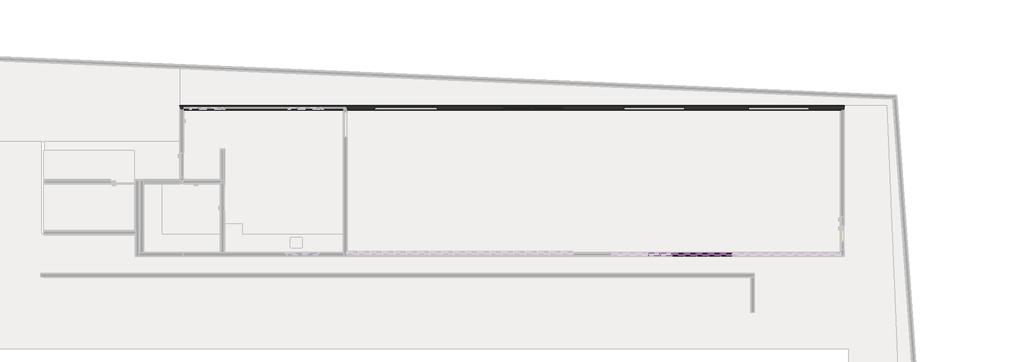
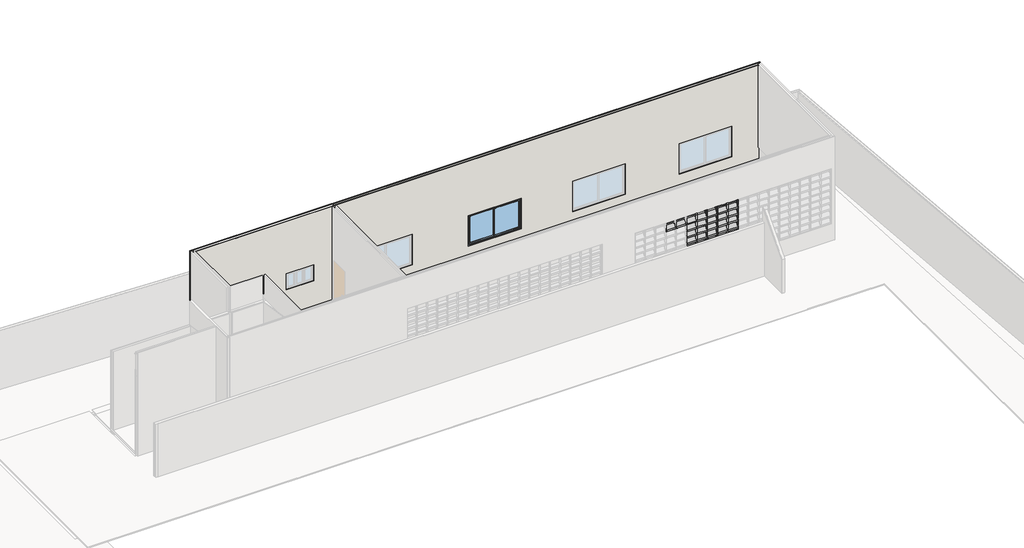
# One storey, part 25 of 28: 97 members, 4 walls, 1 window.
"""IFC4 building model written with IfcOpenShell, lengths in millimetres."""

from ifc_helpers import new_model, si_unit, origin, place, context, project, spatial, faceted_brep, transform, mapped, element, save
from components import montante_retangular_02d07947, montante_retangular_70ba8f4d, montante_retangular_ace9eee9, montante_retangular_afd96132, montante_retangular_e99c3e47, window_2x1_20x1x10_9e9748dd

model = new_model("IFC4")

# Units and contexts
model_context = context("Model", 3, world=origin())
ifc_project = project(units=[si_unit("LENGTHUNIT", "METRE", prefix="MILLI")], contexts=[model_context])

# Site, building, storey
site = spatial("IfcSite", under=ifc_project)
building = spatial("IfcBuilding", under=site)
storey = spatial("IfcBuildingStorey", under=building, Name="Térreo", Elevation=0.0)

# Members
placement = place(None, origin())
montante_retangular_shape = montante_retangular_02d07947(model_context)
element("IfcMember", 1, ObjectType="Montante retangular : FDE_MontanteVenezianaIndustrial_Intermediário_Ref50 (Alumínio Anodizado)", at=placement, inside=storey, context=model_context, shape_type="MappedRepresentation", body=[
    mapped(montante_retangular_shape, transform((-33855.5263157, 48544.0879102, 925.0), x_axis=(1.0, 0.0, 0.0), y_axis=(0.0, -1.0, 0.0), z_axis=(0.0, 0.0, -1.0))),
])
element("IfcMember", 2, ObjectType="Montante retangular : FDE_MontanteVenezianaIndustrial_Intermediário_Ref50 (Alumínio Anodizado)", at=placement, inside=storey, context=model_context, shape_type="MappedRepresentation", body=[
    mapped(montante_retangular_shape, transform((-33448.9473683, 48544.0879102, 925.0), x_axis=(1.0, 0.0, 0.0), y_axis=(0.0, -1.0, 0.0), z_axis=(0.0, 0.0, -1.0))),
])
element("IfcMember", 3, ObjectType="Montante retangular : FDE_MontanteVenezianaIndustrial_Intermediário_Ref50 (Alumínio Anodizado)", at=placement, inside=storey, context=model_context, shape_type="MappedRepresentation", body=[
    mapped(montante_retangular_shape, transform((-33042.368421, 48544.0879102, 925.0), x_axis=(1.0, 0.0, 0.0), y_axis=(0.0, -1.0, 0.0), z_axis=(0.0, 0.0, -1.0))),
])
element("IfcMember", 4, ObjectType="Montante retangular : FDE_MontanteVenezianaIndustrial_Intermediário_Ref50 (Alumínio Anodizado)", at=placement, inside=storey, context=model_context, shape_type="MappedRepresentation", body=[
    mapped(montante_retangular_shape, transform((-32635.7894737, 48544.0879102, 925.0), x_axis=(1.0, 0.0, 0.0), y_axis=(0.0, -1.0, 0.0), z_axis=(0.0, 0.0, -1.0))),
])
element("IfcMember", 5, ObjectType="Montante retangular : FDE_MontanteVenezianaIndustrial_Intermediário_Ref50 (Alumínio Anodizado)", at=placement, inside=storey, context=model_context, shape_type="MappedRepresentation", body=[
    mapped(montante_retangular_shape, transform((-32229.2105263, 48544.0879102, 925.0), x_axis=(1.0, 0.0, 0.0), y_axis=(0.0, -1.0, 0.0), z_axis=(0.0, 0.0, -1.0))),
])
montante_retangular_2_shape = montante_retangular_70ba8f4d(model_context)
element("IfcMember", 6, ObjectType="Montante retangular : FDE_MontanteVenezianaIndustrial_Intermediário_Ref50 (Alumínio Anodizado)", at=placement, inside=storey, context=model_context, shape_type="MappedRepresentation", body=[
    mapped(montante_retangular_2_shape, transform((-33855.5263157, 48544.0879102, 1174.0), x_axis=(1.0, 0.0, 0.0), y_axis=(0.0, -1.0, 0.0), z_axis=(0.0, 0.0, -1.0))),
])
element("IfcMember", 7, ObjectType="Montante retangular : FDE_MontanteVenezianaIndustrial_Intermediário_Ref50 (Alumínio Anodizado)", at=placement, inside=storey, context=model_context, shape_type="MappedRepresentation", body=[
    mapped(montante_retangular_2_shape, transform((-33448.9473683, 48544.0879102, 1174.0), x_axis=(1.0, 0.0, 0.0), y_axis=(0.0, -1.0, 0.0), z_axis=(0.0, 0.0, -1.0))),
])
element("IfcMember", 8, ObjectType="Montante retangular : FDE_MontanteVenezianaIndustrial_Intermediário_Ref50 (Alumínio Anodizado)", at=placement, inside=storey, context=model_context, shape_type="MappedRepresentation", body=[
    mapped(montante_retangular_2_shape, transform((-33042.368421, 48544.0879102, 1174.0), x_axis=(1.0, 0.0, 0.0), y_axis=(0.0, -1.0, 0.0), z_axis=(0.0, 0.0, -1.0))),
])
element("IfcMember", 9, ObjectType="Montante retangular : FDE_MontanteVenezianaIndustrial_Intermediário_Ref50 (Alumínio Anodizado)", at=placement, inside=storey, context=model_context, shape_type="MappedRepresentation", body=[
    mapped(montante_retangular_2_shape, transform((-32635.7894737, 48544.0879102, 1174.0), x_axis=(1.0, 0.0, 0.0), y_axis=(0.0, -1.0, 0.0), z_axis=(0.0, 0.0, -1.0))),
])
element("IfcMember", 10, ObjectType="Montante retangular : FDE_MontanteVenezianaIndustrial_Intermediário_Ref50 (Alumínio Anodizado)", at=placement, inside=storey, context=model_context, shape_type="MappedRepresentation", body=[
    mapped(montante_retangular_2_shape, transform((-32229.2105263, 48544.0879102, 1174.0), x_axis=(1.0, 0.0, 0.0), y_axis=(0.0, -1.0, 0.0), z_axis=(0.0, 0.0, -1.0))),
])
element("IfcMember", 11, ObjectType="Montante retangular : FDE_MontanteVenezianaIndustrial_Intermediário_Ref50 (Alumínio Anodizado)", at=placement, inside=storey, context=model_context, shape_type="MappedRepresentation", body=[
    mapped(montante_retangular_2_shape, transform((-33855.5263157, 48544.0879102, 1448.0), x_axis=(1.0, 0.0, 0.0), y_axis=(0.0, -1.0, 0.0), z_axis=(0.0, 0.0, -1.0))),
])
element("IfcMember", 12, ObjectType="Montante retangular : FDE_MontanteVenezianaIndustrial_Intermediário_Ref50 (Alumínio Anodizado)", at=placement, inside=storey, context=model_context, shape_type="MappedRepresentation", body=[
    mapped(montante_retangular_2_shape, transform((-33448.9473683, 48544.0879102, 1448.0), x_axis=(1.0, 0.0, 0.0), y_axis=(0.0, -1.0, 0.0), z_axis=(0.0, 0.0, -1.0))),
])
element("IfcMember", 13, ObjectType="Montante retangular : FDE_MontanteVenezianaIndustrial_Intermediário_Ref50 (Alumínio Anodizado)", at=placement, inside=storey, context=model_context, shape_type="MappedRepresentation", body=[
    mapped(montante_retangular_2_shape, transform((-33042.368421, 48544.0879102, 1448.0), x_axis=(1.0, 0.0, 0.0), y_axis=(0.0, -1.0, 0.0), z_axis=(0.0, 0.0, -1.0))),
])
element("IfcMember", 14, ObjectType="Montante retangular : FDE_MontanteVenezianaIndustrial_Intermediário_Ref50 (Alumínio Anodizado)", at=placement, inside=storey, context=model_context, shape_type="MappedRepresentation", body=[
    mapped(montante_retangular_2_shape, transform((-32635.7894737, 48544.0879102, 1448.0), x_axis=(1.0, 0.0, 0.0), y_axis=(0.0, -1.0, 0.0), z_axis=(0.0, 0.0, -1.0))),
])
element("IfcMember", 15, ObjectType="Montante retangular : FDE_MontanteVenezianaIndustrial_Intermediário_Ref50 (Alumínio Anodizado)", at=placement, inside=storey, context=model_context, shape_type="MappedRepresentation", body=[
    mapped(montante_retangular_2_shape, transform((-32229.2105263, 48544.0879102, 1448.0), x_axis=(1.0, 0.0, 0.0), y_axis=(0.0, -1.0, 0.0), z_axis=(0.0, 0.0, -1.0))),
])
element("IfcMember", 16, ObjectType="Montante retangular : FDE_MontanteVenezianaIndustrial_Intermediário_Ref50 (Alumínio Anodizado)", at=placement, inside=storey, context=model_context, shape_type="MappedRepresentation", body=[
    mapped(montante_retangular_2_shape, transform((-33855.5263157, 48544.0879102, 1722.0), x_axis=(1.0, 0.0, 0.0), y_axis=(0.0, -1.0, 0.0), z_axis=(0.0, 0.0, -1.0))),
])
element("IfcMember", 17, ObjectType="Montante retangular : FDE_MontanteVenezianaIndustrial_Intermediário_Ref50 (Alumínio Anodizado)", at=placement, inside=storey, context=model_context, shape_type="MappedRepresentation", body=[
    mapped(montante_retangular_2_shape, transform((-33448.9473683, 48544.0879102, 1722.0), x_axis=(1.0, 0.0, 0.0), y_axis=(0.0, -1.0, 0.0), z_axis=(0.0, 0.0, -1.0))),
])
element("IfcMember", 18, ObjectType="Montante retangular : FDE_MontanteVenezianaIndustrial_Intermediário_Ref50 (Alumínio Anodizado)", at=placement, inside=storey, context=model_context, shape_type="MappedRepresentation", body=[
    mapped(montante_retangular_2_shape, transform((-33042.368421, 48544.0879102, 1722.0), x_axis=(1.0, 0.0, 0.0), y_axis=(0.0, -1.0, 0.0), z_axis=(0.0, 0.0, -1.0))),
])
element("IfcMember", 19, ObjectType="Montante retangular : FDE_MontanteVenezianaIndustrial_Intermediário_Ref50 (Alumínio Anodizado)", at=placement, inside=storey, context=model_context, shape_type="MappedRepresentation", body=[
    mapped(montante_retangular_2_shape, transform((-32635.7894737, 48544.0879102, 1722.0), x_axis=(1.0, 0.0, 0.0), y_axis=(0.0, -1.0, 0.0), z_axis=(0.0, 0.0, -1.0))),
])
element("IfcMember", 20, ObjectType="Montante retangular : FDE_MontanteVenezianaIndustrial_Intermediário_Ref50 (Alumínio Anodizado)", at=placement, inside=storey, context=model_context, shape_type="MappedRepresentation", body=[
    mapped(montante_retangular_2_shape, transform((-32229.2105263, 48544.0879102, 1722.0), x_axis=(1.0, 0.0, 0.0), y_axis=(0.0, -1.0, 0.0), z_axis=(0.0, 0.0, -1.0))),
])
element("IfcMember", 21, ObjectType="Montante retangular : FDE_MontanteVenezianaIndustrial_Intermediário_Ref50 (Alumínio Anodizado)", at=placement, inside=storey, context=model_context, shape_type="MappedRepresentation", body=[
    mapped(montante_retangular_2_shape, transform((-33855.5263157, 48544.0879102, 1996.0), x_axis=(1.0, 0.0, 0.0), y_axis=(0.0, -1.0, 0.0), z_axis=(0.0, 0.0, -1.0))),
])
element("IfcMember", 22, ObjectType="Montante retangular : FDE_MontanteVenezianaIndustrial_Intermediário_Ref50 (Alumínio Anodizado)", at=placement, inside=storey, context=model_context, shape_type="MappedRepresentation", body=[
    mapped(montante_retangular_2_shape, transform((-33448.9473683, 48544.0879102, 1996.0), x_axis=(1.0, 0.0, 0.0), y_axis=(0.0, -1.0, 0.0), z_axis=(0.0, 0.0, -1.0))),
])
element("IfcMember", 23, ObjectType="Montante retangular : FDE_MontanteVenezianaIndustrial_Intermediário_Ref50 (Alumínio Anodizado)", at=placement, inside=storey, context=model_context, shape_type="MappedRepresentation", body=[
    mapped(montante_retangular_2_shape, transform((-33042.368421, 48544.0879102, 1996.0), x_axis=(1.0, 0.0, 0.0), y_axis=(0.0, -1.0, 0.0), z_axis=(0.0, 0.0, -1.0))),
])
element("IfcMember", 24, ObjectType="Montante retangular : FDE_MontanteVenezianaIndustrial_Intermediário_Ref50 (Alumínio Anodizado)", at=placement, inside=storey, context=model_context, shape_type="MappedRepresentation", body=[
    mapped(montante_retangular_2_shape, transform((-32635.7894737, 48544.0879102, 1996.0), x_axis=(1.0, 0.0, 0.0), y_axis=(0.0, -1.0, 0.0), z_axis=(0.0, 0.0, -1.0))),
])
element("IfcMember", 25, ObjectType="Montante retangular : FDE_MontanteVenezianaIndustrial_Intermediário_Ref50 (Alumínio Anodizado)", at=placement, inside=storey, context=model_context, shape_type="MappedRepresentation", body=[
    mapped(montante_retangular_2_shape, transform((-32229.2105263, 48544.0879102, 1996.0), x_axis=(1.0, 0.0, 0.0), y_axis=(0.0, -1.0, 0.0), z_axis=(0.0, 0.0, -1.0))),
])
element("IfcMember", 26, ObjectType="Montante retangular : FDE_MontanteVenezianaIndustrial_Intermediário_Ref50 (Alumínio Anodizado)", at=placement, inside=storey, context=model_context, shape_type="MappedRepresentation", body=[
    mapped(montante_retangular_2_shape, transform((-33855.5263157, 48544.0879102, 2270.0), x_axis=(1.0, 0.0, 0.0), y_axis=(0.0, -1.0, 0.0), z_axis=(0.0, 0.0, -1.0))),
])
element("IfcMember", 27, ObjectType="Montante retangular : FDE_MontanteVenezianaIndustrial_Intermediário_Ref50 (Alumínio Anodizado)", at=placement, inside=storey, context=model_context, shape_type="MappedRepresentation", body=[
    mapped(montante_retangular_2_shape, transform((-33448.9473683, 48544.0879102, 2270.0), x_axis=(1.0, 0.0, 0.0), y_axis=(0.0, -1.0, 0.0), z_axis=(0.0, 0.0, -1.0))),
])
element("IfcMember", 28, ObjectType="Montante retangular : FDE_MontanteVenezianaIndustrial_Intermediário_Ref50 (Alumínio Anodizado)", at=placement, inside=storey, context=model_context, shape_type="MappedRepresentation", body=[
    mapped(montante_retangular_2_shape, transform((-33042.368421, 48544.0879102, 2270.0), x_axis=(1.0, 0.0, 0.0), y_axis=(0.0, -1.0, 0.0), z_axis=(0.0, 0.0, -1.0))),
])
element("IfcMember", 29, ObjectType="Montante retangular : FDE_MontanteVenezianaIndustrial_Intermediário_Ref50 (Alumínio Anodizado)", at=placement, inside=storey, context=model_context, shape_type="MappedRepresentation", body=[
    mapped(montante_retangular_2_shape, transform((-32635.7894737, 48544.0879102, 2270.0), x_axis=(1.0, 0.0, 0.0), y_axis=(0.0, -1.0, 0.0), z_axis=(0.0, 0.0, -1.0))),
])
element("IfcMember", 30, ObjectType="Montante retangular : FDE_MontanteVenezianaIndustrial_Intermediário_Ref50 (Alumínio Anodizado)", at=placement, inside=storey, context=model_context, shape_type="MappedRepresentation", body=[
    mapped(montante_retangular_2_shape, transform((-32229.2105263, 48544.0879102, 2270.0), x_axis=(1.0, 0.0, 0.0), y_axis=(0.0, -1.0, 0.0), z_axis=(0.0, 0.0, -1.0))),
])
element("IfcMember", 31, ObjectType="Montante retangular : FDE_MontanteVenezianaIndustrial_Intermediário_Ref50 (Alumínio Anodizado)", at=placement, inside=storey, context=model_context, shape_type="MappedRepresentation", body=[
    mapped(montante_retangular_2_shape, transform((-33855.5263157, 48544.0879102, 2544.0), x_axis=(1.0, 0.0, 0.0), y_axis=(0.0, -1.0, 0.0), z_axis=(0.0, 0.0, -1.0))),
])
element("IfcMember", 32, ObjectType="Montante retangular : FDE_MontanteVenezianaIndustrial_Intermediário_Ref50 (Alumínio Anodizado)", at=placement, inside=storey, context=model_context, shape_type="MappedRepresentation", body=[
    mapped(montante_retangular_2_shape, transform((-33448.9473683, 48544.0879102, 2544.0), x_axis=(1.0, 0.0, 0.0), y_axis=(0.0, -1.0, 0.0), z_axis=(0.0, 0.0, -1.0))),
])
element("IfcMember", 33, ObjectType="Montante retangular : FDE_MontanteVenezianaIndustrial_Intermediário_Ref50 (Alumínio Anodizado)", at=placement, inside=storey, context=model_context, shape_type="MappedRepresentation", body=[
    mapped(montante_retangular_2_shape, transform((-33042.368421, 48544.0879102, 2544.0), x_axis=(1.0, 0.0, 0.0), y_axis=(0.0, -1.0, 0.0), z_axis=(0.0, 0.0, -1.0))),
])
element("IfcMember", 34, ObjectType="Montante retangular : FDE_MontanteVenezianaIndustrial_Intermediário_Ref50 (Alumínio Anodizado)", at=placement, inside=storey, context=model_context, shape_type="MappedRepresentation", body=[
    mapped(montante_retangular_2_shape, transform((-32635.7894737, 48544.0879102, 2544.0), x_axis=(1.0, 0.0, 0.0), y_axis=(0.0, -1.0, 0.0), z_axis=(0.0, 0.0, -1.0))),
])
element("IfcMember", 35, ObjectType="Montante retangular : FDE_MontanteVenezianaIndustrial_Intermediário_Ref50 (Alumínio Anodizado)", at=placement, inside=storey, context=model_context, shape_type="MappedRepresentation", body=[
    mapped(montante_retangular_2_shape, transform((-32229.2105263, 48544.0879102, 2544.0), x_axis=(1.0, 0.0, 0.0), y_axis=(0.0, -1.0, 0.0), z_axis=(0.0, 0.0, -1.0))),
])
element("IfcMember", 36, ObjectType="Montante retangular : FDE_MontanteVenezianaIndustrial_Intermediário_Ref50 (Alumínio Anodizado)", at=placement, inside=storey, context=model_context, shape_type="MappedRepresentation", body=[
    mapped(montante_retangular_2_shape, transform((-33855.5263157, 48544.0879102, 2818.0), x_axis=(1.0, 0.0, 0.0), y_axis=(0.0, -1.0, 0.0), z_axis=(0.0, 0.0, -1.0))),
])
element("IfcMember", 37, ObjectType="Montante retangular : FDE_MontanteVenezianaIndustrial_Intermediário_Ref50 (Alumínio Anodizado)", at=placement, inside=storey, context=model_context, shape_type="MappedRepresentation", body=[
    mapped(montante_retangular_2_shape, transform((-33448.9473683, 48544.0879102, 2818.0), x_axis=(1.0, 0.0, 0.0), y_axis=(0.0, -1.0, 0.0), z_axis=(0.0, 0.0, -1.0))),
])
element("IfcMember", 38, ObjectType="Montante retangular : FDE_MontanteVenezianaIndustrial_Intermediário_Ref50 (Alumínio Anodizado)", at=placement, inside=storey, context=model_context, shape_type="MappedRepresentation", body=[
    mapped(montante_retangular_2_shape, transform((-33042.368421, 48544.0879102, 2818.0), x_axis=(1.0, 0.0, 0.0), y_axis=(0.0, -1.0, 0.0), z_axis=(0.0, 0.0, -1.0))),
])
element("IfcMember", 39, ObjectType="Montante retangular : FDE_MontanteVenezianaIndustrial_Intermediário_Ref50 (Alumínio Anodizado)", at=placement, inside=storey, context=model_context, shape_type="MappedRepresentation", body=[
    mapped(montante_retangular_2_shape, transform((-32635.7894737, 48544.0879102, 2818.0), x_axis=(1.0, 0.0, 0.0), y_axis=(0.0, -1.0, 0.0), z_axis=(0.0, 0.0, -1.0))),
])
element("IfcMember", 40, ObjectType="Montante retangular : FDE_MontanteVenezianaIndustrial_Intermediário_Ref50 (Alumínio Anodizado)", at=placement, inside=storey, context=model_context, shape_type="MappedRepresentation", body=[
    mapped(montante_retangular_2_shape, transform((-32229.2105263, 48544.0879102, 2818.0), x_axis=(1.0, 0.0, 0.0), y_axis=(0.0, -1.0, 0.0), z_axis=(0.0, 0.0, -1.0))),
])
montante_retangular_3_shape = montante_retangular_ace9eee9(model_context)
element("IfcMember", 41, ObjectType="Montante retangular : FDE_MontanteVenezianaIndustrial_Intermediário_Ref50 (Alumínio Anodizado)", at=placement, inside=storey, context=model_context, shape_type="MappedRepresentation", body=[
    mapped(montante_retangular_3_shape, transform((-33855.5263157, 48544.0879102, 3092.0), x_axis=(1.0, 0.0, 0.0), y_axis=(0.0, -1.0, 0.0), z_axis=(0.0, 0.0, -1.0))),
])
element("IfcMember", 42, ObjectType="Montante retangular : FDE_MontanteVenezianaIndustrial_Intermediário_Ref50 (Alumínio Anodizado)", at=placement, inside=storey, context=model_context, shape_type="MappedRepresentation", body=[
    mapped(montante_retangular_3_shape, transform((-33448.9473683, 48544.0879102, 3092.0), x_axis=(1.0, 0.0, 0.0), y_axis=(0.0, -1.0, 0.0), z_axis=(0.0, 0.0, -1.0))),
])
element("IfcMember", 43, ObjectType="Montante retangular : FDE_MontanteVenezianaIndustrial_Intermediário_Ref50 (Alumínio Anodizado)", at=placement, inside=storey, context=model_context, shape_type="MappedRepresentation", body=[
    mapped(montante_retangular_3_shape, transform((-33042.368421, 48544.0879102, 3092.0), x_axis=(1.0, 0.0, 0.0), y_axis=(0.0, -1.0, 0.0), z_axis=(0.0, 0.0, -1.0))),
])
element("IfcMember", 44, ObjectType="Montante retangular : FDE_MontanteVenezianaIndustrial_Intermediário_Ref50 (Alumínio Anodizado)", at=placement, inside=storey, context=model_context, shape_type="MappedRepresentation", body=[
    mapped(montante_retangular_3_shape, transform((-32635.7894737, 48544.0879102, 3092.0), x_axis=(1.0, 0.0, 0.0), y_axis=(0.0, -1.0, 0.0), z_axis=(0.0, 0.0, -1.0))),
])
element("IfcMember", 45, ObjectType="Montante retangular : FDE_MontanteVenezianaIndustrial_Intermediário_Ref50 (Alumínio Anodizado)", at=placement, inside=storey, context=model_context, shape_type="MappedRepresentation", body=[
    mapped(montante_retangular_3_shape, transform((-32229.2105263, 48544.0879102, 3092.0), x_axis=(1.0, 0.0, 0.0), y_axis=(0.0, -1.0, 0.0), z_axis=(0.0, 0.0, -1.0))),
])
montante_retangular_4_shape = montante_retangular_afd96132(model_context)
element("IfcMember", 46, ObjectType="Montante retangular : FDE_MontanteVenezianaIndustrial_BordaOpção2_Ref50 (Alumínio Anodizado)", at=placement, inside=storey, context=model_context, shape_type="MappedRepresentation", body=[
    mapped(montante_retangular_4_shape, transform((-33855.5263157, 48544.0879102, 3200.0), x_axis=(0.0, 0.0, 1.0), y_axis=(0.0, -1.0, 0.0), z_axis=(1.0, 0.0, 0.0))),
])
element("IfcMember", 47, ObjectType="Montante retangular : FDE_MontanteVenezianaIndustrial_BordaOpção2_Ref50 (Alumínio Anodizado)", at=placement, inside=storey, context=model_context, shape_type="MappedRepresentation", body=[
    mapped(montante_retangular_4_shape, transform((-33448.9473683, 48544.0879102, 3200.0), x_axis=(0.0, 0.0, 1.0), y_axis=(0.0, -1.0, 0.0), z_axis=(1.0, 0.0, 0.0))),
])
element("IfcMember", 48, ObjectType="Montante retangular : FDE_MontanteVenezianaIndustrial_BordaOpção2_Ref50 (Alumínio Anodizado)", at=placement, inside=storey, context=model_context, shape_type="MappedRepresentation", body=[
    mapped(montante_retangular_4_shape, transform((-33042.368421, 48544.0879102, 3200.0), x_axis=(0.0, 0.0, 1.0), y_axis=(0.0, -1.0, 0.0), z_axis=(1.0, 0.0, 0.0))),
])
element("IfcMember", 49, ObjectType="Montante retangular : FDE_MontanteVenezianaIndustrial_BordaOpção2_Ref50 (Alumínio Anodizado)", at=placement, inside=storey, context=model_context, shape_type="MappedRepresentation", body=[
    mapped(montante_retangular_4_shape, transform((-32635.7894737, 48544.0879102, 3200.0), x_axis=(0.0, 0.0, 1.0), y_axis=(0.0, -1.0, 0.0), z_axis=(1.0, 0.0, 0.0))),
])
element("IfcMember", 50, ObjectType="Montante retangular : FDE_MontanteVenezianaIndustrial_BordaOpção2_Ref50 (Alumínio Anodizado)", at=placement, inside=storey, context=model_context, shape_type="MappedRepresentation", body=[
    mapped(montante_retangular_4_shape, transform((-32229.2105263, 48544.0879102, 3200.0), x_axis=(0.0, 0.0, 1.0), y_axis=(0.0, -1.0, 0.0), z_axis=(1.0, 0.0, 0.0))),
])
element("IfcMember", 51, ObjectType="Montante retangular : FDE_MontanteVenezianaIndustrial_BordaOpção1_Ref50 (Alumínio Anodizado)", at=placement, inside=storey, context=model_context, shape_type="MappedRepresentation", body=[
    mapped(montante_retangular_4_shape, transform((-33855.5263157, 48544.0879102, 900.0), x_axis=(0.0, 0.0, -1.0), y_axis=(0.0, -1.0, 0.0), z_axis=(-1.0, 0.0, 0.0))),
])
element("IfcMember", 52, ObjectType="Montante retangular : FDE_MontanteVenezianaIndustrial_BordaOpção1_Ref50 (Alumínio Anodizado)", at=placement, inside=storey, context=model_context, shape_type="MappedRepresentation", body=[
    mapped(montante_retangular_4_shape, transform((-33448.9473683, 48544.0879102, 900.0), x_axis=(0.0, 0.0, -1.0), y_axis=(0.0, -1.0, 0.0), z_axis=(-1.0, 0.0, 0.0))),
])
element("IfcMember", 53, ObjectType="Montante retangular : FDE_MontanteVenezianaIndustrial_BordaOpção1_Ref50 (Alumínio Anodizado)", at=placement, inside=storey, context=model_context, shape_type="MappedRepresentation", body=[
    mapped(montante_retangular_4_shape, transform((-33042.368421, 48544.0879102, 900.0), x_axis=(0.0, 0.0, -1.0), y_axis=(0.0, -1.0, 0.0), z_axis=(-1.0, 0.0, 0.0))),
])
element("IfcMember", 54, ObjectType="Montante retangular : FDE_MontanteVenezianaIndustrial_BordaOpção1_Ref50 (Alumínio Anodizado)", at=placement, inside=storey, context=model_context, shape_type="MappedRepresentation", body=[
    mapped(montante_retangular_4_shape, transform((-32635.7894737, 48544.0879102, 900.0), x_axis=(0.0, 0.0, -1.0), y_axis=(0.0, -1.0, 0.0), z_axis=(-1.0, 0.0, 0.0))),
])
element("IfcMember", 55, ObjectType="Montante retangular : FDE_MontanteVenezianaIndustrial_BordaOpção1_Ref50 (Alumínio Anodizado)", at=placement, inside=storey, context=model_context, shape_type="MappedRepresentation", body=[
    mapped(montante_retangular_4_shape, transform((-32229.2105263, 48544.0879102, 900.0), x_axis=(0.0, 0.0, -1.0), y_axis=(0.0, -1.0, 0.0), z_axis=(-1.0, 0.0, 0.0))),
])
montante_retangular_5_shape = montante_retangular_e99c3e47(model_context)
element("IfcMember", 56, ObjectType="Montante retangular : FDE_AletaVenezianaIndustrial_Ref100 (Alumínio Anodizado)", at=placement, inside=storey, context=model_context, shape_type="MappedRepresentation", body=[
    mapped(montante_retangular_5_shape, transform((-33880.5263157, 48544.0879102, 1174.0), x_axis=(0.0, 0.0, 1.0), y_axis=(0.0, -1.0, 0.0), z_axis=(1.0, 0.0, 0.0))),
])
element("IfcMember", 57, ObjectType="Montante retangular : FDE_AletaVenezianaIndustrial_Ref100 (Alumínio Anodizado)", at=placement, inside=storey, context=model_context, shape_type="MappedRepresentation", body=[
    mapped(montante_retangular_5_shape, transform((-33473.9473683, 48544.0879102, 1174.0), x_axis=(0.0, 0.0, 1.0), y_axis=(0.0, -1.0, 0.0), z_axis=(1.0, 0.0, 0.0))),
])
element("IfcMember", 58, ObjectType="Montante retangular : FDE_AletaVenezianaIndustrial_Ref100 (Alumínio Anodizado)", at=placement, inside=storey, context=model_context, shape_type="MappedRepresentation", body=[
    mapped(montante_retangular_5_shape, transform((-33067.368421, 48544.0879102, 1174.0), x_axis=(0.0, 0.0, 1.0), y_axis=(0.0, -1.0, 0.0), z_axis=(1.0, 0.0, 0.0))),
])
element("IfcMember", 59, ObjectType="Montante retangular : FDE_AletaVenezianaIndustrial_Ref100 (Alumínio Anodizado)", at=placement, inside=storey, context=model_context, shape_type="MappedRepresentation", body=[
    mapped(montante_retangular_5_shape, transform((-32660.7894737, 48544.0879102, 1174.0), x_axis=(0.0, 0.0, 1.0), y_axis=(0.0, -1.0, 0.0), z_axis=(1.0, 0.0, 0.0))),
])
element("IfcMember", 60, ObjectType="Montante retangular : FDE_AletaVenezianaIndustrial_Ref100 (Alumínio Anodizado)", at=placement, inside=storey, context=model_context, shape_type="MappedRepresentation", body=[
    mapped(montante_retangular_5_shape, transform((-32254.2105263, 48544.0879102, 1174.0), x_axis=(0.0, 0.0, 1.0), y_axis=(0.0, -1.0, 0.0), z_axis=(1.0, 0.0, 0.0))),
])
element("IfcMember", 61, ObjectType="Montante retangular : FDE_AletaVenezianaIndustrial_Ref100 (Alumínio Anodizado)", at=placement, inside=storey, context=model_context, shape_type="MappedRepresentation", body=[
    mapped(montante_retangular_5_shape, transform((-33880.5263157, 48544.0879102, 1448.0), x_axis=(0.0, 0.0, 1.0), y_axis=(0.0, -1.0, 0.0), z_axis=(1.0, 0.0, 0.0))),
])
element("IfcMember", 62, ObjectType="Montante retangular : FDE_AletaVenezianaIndustrial_Ref100 (Alumínio Anodizado)", at=placement, inside=storey, context=model_context, shape_type="MappedRepresentation", body=[
    mapped(montante_retangular_5_shape, transform((-33473.9473683, 48544.0879102, 1448.0), x_axis=(0.0, 0.0, 1.0), y_axis=(0.0, -1.0, 0.0), z_axis=(1.0, 0.0, 0.0))),
])
element("IfcMember", 63, ObjectType="Montante retangular : FDE_AletaVenezianaIndustrial_Ref100 (Alumínio Anodizado)", at=placement, inside=storey, context=model_context, shape_type="MappedRepresentation", body=[
    mapped(montante_retangular_5_shape, transform((-33067.368421, 48544.0879102, 1448.0), x_axis=(0.0, 0.0, 1.0), y_axis=(0.0, -1.0, 0.0), z_axis=(1.0, 0.0, 0.0))),
])
element("IfcMember", 64, ObjectType="Montante retangular : FDE_AletaVenezianaIndustrial_Ref100 (Alumínio Anodizado)", at=placement, inside=storey, context=model_context, shape_type="MappedRepresentation", body=[
    mapped(montante_retangular_5_shape, transform((-32660.7894737, 48544.0879102, 1448.0), x_axis=(0.0, 0.0, 1.0), y_axis=(0.0, -1.0, 0.0), z_axis=(1.0, 0.0, 0.0))),
])
element("IfcMember", 65, ObjectType="Montante retangular : FDE_AletaVenezianaIndustrial_Ref100 (Alumínio Anodizado)", at=placement, inside=storey, context=model_context, shape_type="MappedRepresentation", body=[
    mapped(montante_retangular_5_shape, transform((-32254.2105263, 48544.0879102, 1448.0), x_axis=(0.0, 0.0, 1.0), y_axis=(0.0, -1.0, 0.0), z_axis=(1.0, 0.0, 0.0))),
])
element("IfcMember", 66, ObjectType="Montante retangular : FDE_AletaVenezianaIndustrial_Ref100 (Alumínio Anodizado)", at=placement, inside=storey, context=model_context, shape_type="MappedRepresentation", body=[
    mapped(montante_retangular_5_shape, transform((-33880.5263157, 48544.0879102, 1722.0), x_axis=(0.0, 0.0, 1.0), y_axis=(0.0, -1.0, 0.0), z_axis=(1.0, 0.0, 0.0))),
])
element("IfcMember", 67, ObjectType="Montante retangular : FDE_AletaVenezianaIndustrial_Ref100 (Alumínio Anodizado)", at=placement, inside=storey, context=model_context, shape_type="MappedRepresentation", body=[
    mapped(montante_retangular_5_shape, transform((-33473.9473683, 48544.0879102, 1722.0), x_axis=(0.0, 0.0, 1.0), y_axis=(0.0, -1.0, 0.0), z_axis=(1.0, 0.0, 0.0))),
])
element("IfcMember", 68, ObjectType="Montante retangular : FDE_AletaVenezianaIndustrial_Ref100 (Alumínio Anodizado)", at=placement, inside=storey, context=model_context, shape_type="MappedRepresentation", body=[
    mapped(montante_retangular_5_shape, transform((-33067.368421, 48544.0879102, 1722.0), x_axis=(0.0, 0.0, 1.0), y_axis=(0.0, -1.0, 0.0), z_axis=(1.0, 0.0, 0.0))),
])
element("IfcMember", 69, ObjectType="Montante retangular : FDE_AletaVenezianaIndustrial_Ref100 (Alumínio Anodizado)", at=placement, inside=storey, context=model_context, shape_type="MappedRepresentation", body=[
    mapped(montante_retangular_5_shape, transform((-32660.7894737, 48544.0879102, 1722.0), x_axis=(0.0, 0.0, 1.0), y_axis=(0.0, -1.0, 0.0), z_axis=(1.0, 0.0, 0.0))),
])
element("IfcMember", 70, ObjectType="Montante retangular : FDE_AletaVenezianaIndustrial_Ref100 (Alumínio Anodizado)", at=placement, inside=storey, context=model_context, shape_type="MappedRepresentation", body=[
    mapped(montante_retangular_5_shape, transform((-32254.2105263, 48544.0879102, 1722.0), x_axis=(0.0, 0.0, 1.0), y_axis=(0.0, -1.0, 0.0), z_axis=(1.0, 0.0, 0.0))),
])
element("IfcMember", 71, ObjectType="Montante retangular : FDE_AletaVenezianaIndustrial_Ref100 (Alumínio Anodizado)", at=placement, inside=storey, context=model_context, shape_type="MappedRepresentation", body=[
    mapped(montante_retangular_5_shape, transform((-33880.5263157, 48544.0879102, 1996.0), x_axis=(0.0, 0.0, 1.0), y_axis=(0.0, -1.0, 0.0), z_axis=(1.0, 0.0, 0.0))),
])
element("IfcMember", 72, ObjectType="Montante retangular : FDE_AletaVenezianaIndustrial_Ref100 (Alumínio Anodizado)", at=placement, inside=storey, context=model_context, shape_type="MappedRepresentation", body=[
    mapped(montante_retangular_5_shape, transform((-33473.9473683, 48544.0879102, 1996.0), x_axis=(0.0, 0.0, 1.0), y_axis=(0.0, -1.0, 0.0), z_axis=(1.0, 0.0, 0.0))),
])
element("IfcMember", 73, ObjectType="Montante retangular : FDE_AletaVenezianaIndustrial_Ref100 (Alumínio Anodizado)", at=placement, inside=storey, context=model_context, shape_type="MappedRepresentation", body=[
    mapped(montante_retangular_5_shape, transform((-33067.368421, 48544.0879102, 1996.0), x_axis=(0.0, 0.0, 1.0), y_axis=(0.0, -1.0, 0.0), z_axis=(1.0, 0.0, 0.0))),
])
element("IfcMember", 74, ObjectType="Montante retangular : FDE_AletaVenezianaIndustrial_Ref100 (Alumínio Anodizado)", at=placement, inside=storey, context=model_context, shape_type="MappedRepresentation", body=[
    mapped(montante_retangular_5_shape, transform((-32660.7894737, 48544.0879102, 1996.0), x_axis=(0.0, 0.0, 1.0), y_axis=(0.0, -1.0, 0.0), z_axis=(1.0, 0.0, 0.0))),
])
element("IfcMember", 75, ObjectType="Montante retangular : FDE_AletaVenezianaIndustrial_Ref100 (Alumínio Anodizado)", at=placement, inside=storey, context=model_context, shape_type="MappedRepresentation", body=[
    mapped(montante_retangular_5_shape, transform((-32254.2105263, 48544.0879102, 1996.0), x_axis=(0.0, 0.0, 1.0), y_axis=(0.0, -1.0, 0.0), z_axis=(1.0, 0.0, 0.0))),
])
element("IfcMember", 76, ObjectType="Montante retangular : FDE_AletaVenezianaIndustrial_Ref100 (Alumínio Anodizado)", at=placement, inside=storey, context=model_context, shape_type="MappedRepresentation", body=[
    mapped(montante_retangular_5_shape, transform((-33880.5263157, 48544.0879102, 2270.0), x_axis=(0.0, 0.0, 1.0), y_axis=(0.0, -1.0, 0.0), z_axis=(1.0, 0.0, 0.0))),
])
element("IfcMember", 77, ObjectType="Montante retangular : FDE_AletaVenezianaIndustrial_Ref100 (Alumínio Anodizado)", at=placement, inside=storey, context=model_context, shape_type="MappedRepresentation", body=[
    mapped(montante_retangular_5_shape, transform((-33473.9473683, 48544.0879102, 2270.0), x_axis=(0.0, 0.0, 1.0), y_axis=(0.0, -1.0, 0.0), z_axis=(1.0, 0.0, 0.0))),
])
element("IfcMember", 78, ObjectType="Montante retangular : FDE_AletaVenezianaIndustrial_Ref100 (Alumínio Anodizado)", at=placement, inside=storey, context=model_context, shape_type="MappedRepresentation", body=[
    mapped(montante_retangular_5_shape, transform((-33067.368421, 48544.0879102, 2270.0), x_axis=(0.0, 0.0, 1.0), y_axis=(0.0, -1.0, 0.0), z_axis=(1.0, 0.0, 0.0))),
])
element("IfcMember", 79, ObjectType="Montante retangular : FDE_AletaVenezianaIndustrial_Ref100 (Alumínio Anodizado)", at=placement, inside=storey, context=model_context, shape_type="MappedRepresentation", body=[
    mapped(montante_retangular_5_shape, transform((-32660.7894737, 48544.0879102, 2270.0), x_axis=(0.0, 0.0, 1.0), y_axis=(0.0, -1.0, 0.0), z_axis=(1.0, 0.0, 0.0))),
])
element("IfcMember", 80, ObjectType="Montante retangular : FDE_AletaVenezianaIndustrial_Ref100 (Alumínio Anodizado)", at=placement, inside=storey, context=model_context, shape_type="MappedRepresentation", body=[
    mapped(montante_retangular_5_shape, transform((-32254.2105263, 48544.0879102, 2270.0), x_axis=(0.0, 0.0, 1.0), y_axis=(0.0, -1.0, 0.0), z_axis=(1.0, 0.0, 0.0))),
])
element("IfcMember", 81, ObjectType="Montante retangular : FDE_AletaVenezianaIndustrial_Ref100 (Alumínio Anodizado)", at=placement, inside=storey, context=model_context, shape_type="MappedRepresentation", body=[
    mapped(montante_retangular_5_shape, transform((-33880.5263157, 48544.0879102, 2544.0), x_axis=(0.0, 0.0, 1.0), y_axis=(0.0, -1.0, 0.0), z_axis=(1.0, 0.0, 0.0))),
])
element("IfcMember", 82, ObjectType="Montante retangular : FDE_AletaVenezianaIndustrial_Ref100 (Alumínio Anodizado)", at=placement, inside=storey, context=model_context, shape_type="MappedRepresentation", body=[
    mapped(montante_retangular_5_shape, transform((-33473.9473683, 48544.0879102, 2544.0), x_axis=(0.0, 0.0, 1.0), y_axis=(0.0, -1.0, 0.0), z_axis=(1.0, 0.0, 0.0))),
])
element("IfcMember", 83, ObjectType="Montante retangular : FDE_AletaVenezianaIndustrial_Ref100 (Alumínio Anodizado)", at=placement, inside=storey, context=model_context, shape_type="MappedRepresentation", body=[
    mapped(montante_retangular_5_shape, transform((-33067.368421, 48544.0879102, 2544.0), x_axis=(0.0, 0.0, 1.0), y_axis=(0.0, -1.0, 0.0), z_axis=(1.0, 0.0, 0.0))),
])
element("IfcMember", 84, ObjectType="Montante retangular : FDE_AletaVenezianaIndustrial_Ref100 (Alumínio Anodizado)", at=placement, inside=storey, context=model_context, shape_type="MappedRepresentation", body=[
    mapped(montante_retangular_5_shape, transform((-32660.7894737, 48544.0879102, 2544.0), x_axis=(0.0, 0.0, 1.0), y_axis=(0.0, -1.0, 0.0), z_axis=(1.0, 0.0, 0.0))),
])
element("IfcMember", 85, ObjectType="Montante retangular : FDE_AletaVenezianaIndustrial_Ref100 (Alumínio Anodizado)", at=placement, inside=storey, context=model_context, shape_type="MappedRepresentation", body=[
    mapped(montante_retangular_5_shape, transform((-32254.2105263, 48544.0879102, 2544.0), x_axis=(0.0, 0.0, 1.0), y_axis=(0.0, -1.0, 0.0), z_axis=(1.0, 0.0, 0.0))),
])
element("IfcMember", 86, ObjectType="Montante retangular : FDE_AletaVenezianaIndustrial_Ref100 (Alumínio Anodizado)", at=placement, inside=storey, context=model_context, shape_type="MappedRepresentation", body=[
    mapped(montante_retangular_5_shape, transform((-33880.5263157, 48544.0879102, 2818.0), x_axis=(0.0, 0.0, 1.0), y_axis=(0.0, -1.0, 0.0), z_axis=(1.0, 0.0, 0.0))),
])
element("IfcMember", 87, ObjectType="Montante retangular : FDE_AletaVenezianaIndustrial_Ref100 (Alumínio Anodizado)", at=placement, inside=storey, context=model_context, shape_type="MappedRepresentation", body=[
    mapped(montante_retangular_5_shape, transform((-33473.9473683, 48544.0879102, 2818.0), x_axis=(0.0, 0.0, 1.0), y_axis=(0.0, -1.0, 0.0), z_axis=(1.0, 0.0, 0.0))),
])
element("IfcMember", 88, ObjectType="Montante retangular : FDE_AletaVenezianaIndustrial_Ref100 (Alumínio Anodizado)", at=placement, inside=storey, context=model_context, shape_type="MappedRepresentation", body=[
    mapped(montante_retangular_5_shape, transform((-33067.368421, 48544.0879102, 2818.0), x_axis=(0.0, 0.0, 1.0), y_axis=(0.0, -1.0, 0.0), z_axis=(1.0, 0.0, 0.0))),
])
element("IfcMember", 89, ObjectType="Montante retangular : FDE_AletaVenezianaIndustrial_Ref100 (Alumínio Anodizado)", at=placement, inside=storey, context=model_context, shape_type="MappedRepresentation", body=[
    mapped(montante_retangular_5_shape, transform((-32660.7894737, 48544.0879102, 2818.0), x_axis=(0.0, 0.0, 1.0), y_axis=(0.0, -1.0, 0.0), z_axis=(1.0, 0.0, 0.0))),
])
element("IfcMember", 90, ObjectType="Montante retangular : FDE_AletaVenezianaIndustrial_Ref100 (Alumínio Anodizado)", at=placement, inside=storey, context=model_context, shape_type="MappedRepresentation", body=[
    mapped(montante_retangular_5_shape, transform((-32254.2105263, 48544.0879102, 2818.0), x_axis=(0.0, 0.0, 1.0), y_axis=(0.0, -1.0, 0.0), z_axis=(1.0, 0.0, 0.0))),
])
element("IfcMember", 91, ObjectType="Montante retangular : FDE_AletaVenezianaIndustrial_Ref100 (Alumínio Anodizado)", at=placement, inside=storey, context=model_context, shape_type="MappedRepresentation", body=[
    mapped(montante_retangular_5_shape, transform((-34693.6842103, 48544.0879102, 3092.0), x_axis=(0.0, 0.0, 1.0), y_axis=(0.0, -1.0, 0.0), z_axis=(1.0, 0.0, 0.0))),
])
element("IfcMember", 92, ObjectType="Montante retangular : FDE_AletaVenezianaIndustrial_Ref100 (Alumínio Anodizado)", at=placement, inside=storey, context=model_context, shape_type="MappedRepresentation", body=[
    mapped(montante_retangular_5_shape, transform((-34287.105263, 48544.0879102, 3092.0), x_axis=(0.0, 0.0, 1.0), y_axis=(0.0, -1.0, 0.0), z_axis=(1.0, 0.0, 0.0))),
])
element("IfcMember", 93, ObjectType="Montante retangular : FDE_AletaVenezianaIndustrial_Ref100 (Alumínio Anodizado)", at=placement, inside=storey, context=model_context, shape_type="MappedRepresentation", body=[
    mapped(montante_retangular_5_shape, transform((-33880.5263157, 48544.0879102, 3092.0), x_axis=(0.0, 0.0, 1.0), y_axis=(0.0, -1.0, 0.0), z_axis=(1.0, 0.0, 0.0))),
])
element("IfcMember", 94, ObjectType="Montante retangular : FDE_AletaVenezianaIndustrial_Ref100 (Alumínio Anodizado)", at=placement, inside=storey, context=model_context, shape_type="MappedRepresentation", body=[
    mapped(montante_retangular_5_shape, transform((-33473.9473683, 48544.0879102, 3092.0), x_axis=(0.0, 0.0, 1.0), y_axis=(0.0, -1.0, 0.0), z_axis=(1.0, 0.0, 0.0))),
])
element("IfcMember", 95, ObjectType="Montante retangular : FDE_AletaVenezianaIndustrial_Ref100 (Alumínio Anodizado)", at=placement, inside=storey, context=model_context, shape_type="MappedRepresentation", body=[
    mapped(montante_retangular_5_shape, transform((-33067.368421, 48544.0879102, 3092.0), x_axis=(0.0, 0.0, 1.0), y_axis=(0.0, -1.0, 0.0), z_axis=(1.0, 0.0, 0.0))),
])
element("IfcMember", 96, ObjectType="Montante retangular : FDE_AletaVenezianaIndustrial_Ref100 (Alumínio Anodizado)", at=placement, inside=storey, context=model_context, shape_type="MappedRepresentation", body=[
    mapped(montante_retangular_5_shape, transform((-32660.7894737, 48544.0879102, 3092.0), x_axis=(0.0, 0.0, 1.0), y_axis=(0.0, -1.0, 0.0), z_axis=(1.0, 0.0, 0.0))),
])
element("IfcMember", 97, ObjectType="Montante retangular : FDE_AletaVenezianaIndustrial_Ref100 (Alumínio Anodizado)", at=placement, inside=storey, context=model_context, shape_type="MappedRepresentation", body=[
    mapped(montante_retangular_5_shape, transform((-32254.2105263, 48544.0879102, 3092.0), x_axis=(0.0, 0.0, 1.0), y_axis=(0.0, -1.0, 0.0), z_axis=(1.0, 0.0, 0.0))),
])

# Walls
element("IfcWall", 98, ObjectType="FDE_S712_AlvenariadeTijoloCerâmico/Baiano_Alvenaria_9cm - Existente", at=placement, inside=storey, context=model_context, shape_type="Brep", body=[
    faceted_brep([(-50856.66665, 53449.0879102, 3500.0), (-50856.66665, 53449.0879102, 0.0), (-50766.66665, 53449.0879102, 0.0), (-45340.0, 53449.0879102, 0.0), (-45250.0, 53449.0879102, 0.0), (-28570.0, 53449.0879102, 0.0), (-28480.0, 53449.0879102, 0.0), (-28480.0, 53449.0879102, 3500.0), (-28570.0, 53449.0879102, 3500.0), (-45250.0, 53449.0879102, 3500.0), (-45340.0, 53449.0879102, 3500.0), (-50766.66665, 53449.0879102, 3500.0), (-31705.0, 53449.0879102, 1065.0), (-31705.0, 53449.0879102, 2335.0), (-29635.0, 53449.0879102, 2335.0), (-29635.0, 53449.0879102, 1065.0), (-35905.0, 53449.0879102, 965.0), (-35905.0, 53449.0879102, 2235.0), (-33835.0, 53449.0879102, 2235.0), (-33835.0, 53449.0879102, 965.0), (-40005.0, 53449.0879102, 965.0), (-40005.0, 53449.0879102, 2235.0), (-37935.0, 53449.0879102, 2235.0), (-37935.0, 53449.0879102, 965.0), (-44285.0000019, 53449.0879102, 965.0), (-44285.0000019, 53449.0879102, 2235.0), (-42215.0000019, 53449.0879102, 2235.0), (-42215.0000019, 53449.0879102, 965.0), (-47175.0000019, 53449.0879102, 1665.0), (-47175.0000019, 53449.0879102, 2335.0), (-46105.0000019, 53449.0879102, 2335.0), (-46105.0000019, 53449.0879102, 1665.0), (-50501.66665, 53449.0879102, 1665.0), (-50501.66665, 53449.0879102, 2335.0), (-49431.66665, 53449.0879102, 2335.0), (-49431.66665, 53449.0879102, 1665.0), (-50856.66665, 53539.0879102, 0.0), (-50856.66665, 53539.0879102, 3500.0), (-28480.0, 53539.0879102, 3500.0), (-28480.0, 53539.0879102, 0.0), (-31705.0, 53539.0879102, 1065.0), (-29635.0, 53539.0879102, 1065.0), (-29635.0, 53539.0879102, 2335.0), (-31705.0, 53539.0879102, 2335.0), (-35905.0, 53539.0879102, 965.0), (-33835.0, 53539.0879102, 965.0), (-33835.0, 53539.0879102, 2235.0), (-35905.0, 53539.0879102, 2235.0), (-40005.0, 53539.0879102, 965.0), (-37935.0, 53539.0879102, 965.0), (-37935.0, 53539.0879102, 2235.0), (-40005.0, 53539.0879102, 2235.0), (-44285.0000019, 53539.0879102, 965.0), (-42215.0000019, 53539.0879102, 965.0), (-42215.0000019, 53539.0879102, 2235.0), (-44285.0000019, 53539.0879102, 2235.0), (-47175.0000019, 53539.0879102, 1665.0), (-46105.0000019, 53539.0879102, 1665.0), (-46105.0000019, 53539.0879102, 2335.0), (-47175.0000019, 53539.0879102, 2335.0), (-50501.66665, 53539.0879102, 1665.0), (-49431.66665, 53539.0879102, 1665.0), (-49431.66665, 53539.0879102, 2335.0), (-50501.66665, 53539.0879102, 2335.0)], [[[0, 1, 2, 3, 4, 5, 6, 7, 8, 9, 10, 11], [12, 13, 14, 15], [16, 17, 18, 19], [20, 21, 22, 23], [24, 25, 26, 27], [28, 29, 30, 31], [32, 33, 34, 35]], [[36, 37, 38, 39], [40, 41, 42, 43], [44, 45, 46, 47], [48, 49, 50, 51], [52, 53, 54, 55], [56, 57, 58, 59], [60, 61, 62, 63]], [[6, 5, 4, 3, 2, 1, 36, 39]], [[0, 11, 10, 9, 8, 7, 38, 37]], [[7, 6, 39, 38]], [[13, 12, 40, 43]], [[14, 13, 43, 42]], [[15, 14, 42, 41]], [[12, 15, 41, 40]], [[17, 16, 44, 47]], [[18, 17, 47, 46]], [[19, 18, 46, 45]], [[16, 19, 45, 44]], [[21, 20, 48, 51]], [[22, 21, 51, 50]], [[23, 22, 50, 49]], [[20, 23, 49, 48]], [[25, 24, 52, 55]], [[26, 25, 55, 54]], [[27, 26, 54, 53]], [[24, 27, 53, 52]], [[29, 28, 56, 59]], [[30, 29, 59, 58]], [[31, 30, 58, 57]], [[28, 31, 57, 56]], [[33, 32, 60, 63]], [[34, 33, 63, 62]], [[35, 34, 62, 61]], [[32, 35, 61, 60]], [[0, 37, 36, 1]]]),
])
element("IfcWall", 99, ObjectType="FDE_S712_AlvenariadeTijoloCerâmico/Baiano_Alvenaria_9cm - Existente", at=placement, inside=storey, context=model_context, shape_type="Brep", body=[
    faceted_brep([(-45250.0000019, 53449.0879102, 0.0), (-28570.0, 53449.0879102, 0.0), (-28570.0, 53449.0879102, 220.0), (-28570.0, 53449.0879102, 4500.0), (-45220.0000019, 53449.0879102, 4500.0), (-45250.0000019, 53449.0879102, 4500.0), (-45295.0000019, 53449.0879102, 4500.0), (-45295.0000019, 53449.0879102, 4252.5), (-45250.0000019, 53449.0879102, 4252.5), (-45250.0000019, 53449.0879102, 220.0), (-40005.0, 53449.0879102, 965.0), (-40005.0, 53449.0879102, 2235.0), (-37935.0, 53449.0879102, 2235.0), (-37935.0, 53449.0879102, 965.0), (-44285.0000019, 53449.0879102, 965.0), (-44285.0000019, 53449.0879102, 2235.0), (-42215.0000019, 53449.0879102, 2235.0), (-42215.0000019, 53449.0879102, 965.0), (-31705.0, 53449.0879102, 1065.0), (-31705.0, 53449.0879102, 2335.0), (-29635.0, 53449.0879102, 2335.0), (-29635.0, 53449.0879102, 1065.0), (-35905.0, 53449.0879102, 965.0), (-35905.0, 53449.0879102, 2235.0), (-33835.0, 53449.0879102, 2235.0), (-33835.0, 53449.0879102, 965.0), (-45250.0000019, 53539.0879102, 0.0), (-45250.0000019, 53539.0879102, 3500.0), (-45250.0000019, 53539.0879102, 4252.5), (-45295.0000019, 53539.0879102, 4252.5), (-45295.0000019, 53539.0879102, 4500.0), (-28570.0, 53539.0879102, 4500.0), (-28570.0, 53539.0879102, 4469.7879016), (-28570.0, 53539.0879102, 3500.0), (-28570.0, 53539.0879102, 0.0), (-31705.0, 53539.0879102, 1065.0), (-29635.0, 53539.0879102, 1065.0), (-29635.0, 53539.0879102, 2335.0), (-31705.0, 53539.0879102, 2335.0), (-35905.0, 53539.0879102, 965.0), (-33835.0, 53539.0879102, 965.0), (-33835.0, 53539.0879102, 2235.0), (-35905.0, 53539.0879102, 2235.0), (-40005.0, 53539.0879102, 965.0), (-37935.0, 53539.0879102, 965.0), (-37935.0, 53539.0879102, 2235.0), (-40005.0, 53539.0879102, 2235.0), (-44285.0000019, 53539.0879102, 965.0), (-42215.0000019, 53539.0879102, 965.0), (-42215.0000019, 53539.0879102, 2235.0), (-44285.0000019, 53539.0879102, 2235.0)], [[[0, 1, 2, 3, 4, 5, 6, 7, 8, 9], [10, 11, 12, 13], [14, 15, 16, 17], [18, 19, 20, 21], [22, 23, 24, 25]], [[26, 27, 28, 29, 30, 31, 32, 33, 34], [35, 36, 37, 38], [39, 40, 41, 42], [43, 44, 45, 46], [47, 48, 49, 50]], [[1, 0, 26, 34]], [[6, 5, 4, 3, 31, 30]], [[19, 18, 35, 38]], [[20, 19, 38, 37]], [[21, 20, 37, 36]], [[18, 21, 36, 35]], [[23, 22, 39, 42]], [[24, 23, 42, 41]], [[25, 24, 41, 40]], [[22, 25, 40, 39]], [[11, 10, 43, 46]], [[12, 11, 46, 45]], [[13, 12, 45, 44]], [[10, 13, 44, 43]], [[15, 14, 47, 50]], [[16, 15, 50, 49]], [[17, 16, 49, 48]], [[14, 17, 48, 47]], [[7, 6, 30, 29]], [[7, 29, 28, 8]], [[0, 9, 8, 28, 27, 26]], [[1, 34, 33, 32, 31, 3, 2]]]),
])
element("IfcWall", 100, ObjectType="Pintura Externa - Tinta Acrílica Verbrás  Verde Água", at=placement, inside=storey, context=model_context, shape_type="Brep", body=[
    faceted_brep([(-28450.0, 53569.0879102, 0.0), (-50886.66665, 53569.0879102, 0.0), (-50886.66665, 53569.0879102, 4500.0), (-28450.0, 53569.0879102, 4500.0), (-47175.0000019, 53569.0879102, 1665.0), (-46105.0000019, 53569.0879102, 1665.0), (-46105.0000019, 53569.0879102, 2335.0), (-47175.0000019, 53569.0879102, 2335.0), (-50501.66665, 53569.0879102, 1665.0), (-49431.66665, 53569.0879102, 1665.0), (-49431.66665, 53569.0879102, 2335.0), (-50501.66665, 53569.0879102, 2335.0), (-31705.0, 53569.0879102, 1065.0), (-29635.0, 53569.0879102, 1065.0), (-29635.0, 53569.0879102, 2335.0), (-31705.0, 53569.0879102, 2335.0), (-35905.0, 53569.0879102, 965.0), (-33835.0, 53569.0879102, 965.0), (-33835.0, 53569.0879102, 2235.0), (-35905.0, 53569.0879102, 2235.0), (-40005.0, 53569.0879102, 965.0), (-37935.0, 53569.0879102, 965.0), (-37935.0, 53569.0879102, 2235.0), (-40005.0, 53569.0879102, 2235.0), (-44285.0000019, 53569.0879102, 965.0), (-42215.0000019, 53569.0879102, 965.0), (-42215.0000019, 53569.0879102, 2235.0), (-44285.0000019, 53569.0879102, 2235.0), (-28450.0, 53539.0879102, 0.0), (-28450.0, 53539.0879102, 4500.0), (-28480.0, 53539.0879102, 4500.0), (-28570.0, 53539.0879102, 4500.0), (-45295.0000019, 53539.0879102, 4500.0), (-50766.66665, 53539.0879102, 4500.0), (-50856.66665, 53539.0879102, 4500.0), (-50886.66665, 53539.0879102, 4500.0), (-50886.66665, 53539.0879102, 0.0), (-50856.66665, 53539.0879102, 0.0), (-50766.66665, 53539.0879102, 0.0), (-45340.0000019, 53539.0879102, 0.0), (-45250.0000019, 53539.0879102, 0.0), (-28570.0, 53539.0879102, 0.0), (-28480.0, 53539.0879102, 0.0), (-47175.0000019, 53539.0879102, 1665.0), (-47175.0000019, 53539.0879102, 2335.0), (-46105.0000019, 53539.0879102, 2335.0), (-46105.0000019, 53539.0879102, 1665.0), (-50501.66665, 53539.0879102, 1665.0), (-50501.66665, 53539.0879102, 2335.0), (-49431.66665, 53539.0879102, 2335.0), (-49431.66665, 53539.0879102, 1665.0), (-31705.0, 53539.0879102, 1065.0), (-31705.0, 53539.0879102, 2335.0), (-29635.0, 53539.0879102, 2335.0), (-29635.0, 53539.0879102, 1065.0), (-35905.0, 53539.0879102, 965.0), (-35905.0, 53539.0879102, 2235.0), (-33835.0, 53539.0879102, 2235.0), (-33835.0, 53539.0879102, 965.0), (-40005.0, 53539.0879102, 965.0), (-40005.0, 53539.0879102, 2235.0), (-37935.0, 53539.0879102, 2235.0), (-37935.0, 53539.0879102, 965.0), (-44285.0000019, 53539.0879102, 965.0), (-44285.0000019, 53539.0879102, 2235.0), (-42215.0000019, 53539.0879102, 2235.0), (-42215.0000019, 53539.0879102, 965.0)], [[[0, 1, 2, 3], [4, 5, 6, 7], [8, 9, 10, 11], [12, 13, 14, 15], [16, 17, 18, 19], [20, 21, 22, 23], [24, 25, 26, 27]], [[28, 29, 30, 31, 32, 33, 34, 35, 36, 37, 38, 39, 40, 41, 42], [43, 44, 45, 46], [47, 48, 49, 50], [51, 52, 53, 54], [55, 56, 57, 58], [59, 60, 61, 62], [63, 64, 65, 66]], [[1, 0, 28, 42, 41, 40, 39, 38, 37, 36]], [[3, 2, 35, 34, 33, 32, 31, 30, 29]], [[44, 43, 4, 7]], [[45, 44, 7, 6]], [[46, 45, 6, 5]], [[43, 46, 5, 4]], [[48, 47, 8, 11]], [[49, 48, 11, 10]], [[50, 49, 10, 9]], [[47, 50, 9, 8]], [[2, 1, 36, 35]], [[0, 3, 29, 28]], [[52, 51, 12, 15]], [[53, 52, 15, 14]], [[54, 53, 14, 13]], [[51, 54, 13, 12]], [[56, 55, 16, 19]], [[57, 56, 19, 18]], [[58, 57, 18, 17]], [[55, 58, 17, 16]], [[60, 59, 20, 23]], [[61, 60, 23, 22]], [[62, 61, 22, 21]], [[59, 62, 21, 20]], [[64, 63, 24, 27]], [[65, 64, 27, 26]], [[66, 65, 26, 25]], [[63, 66, 25, 24]]]),
])
element("IfcWall", 101, ObjectType="Revestimento Cerâmico 10x10cm", at=placement, inside=storey, context=model_context, shape_type="Brep", body=[
    faceted_brep([(-28570.0, 53449.0879102, 220.0), (-50766.66665, 53449.0879102, 220.0), (-50766.66665, 53449.0879102, 3500.0), (-50766.66665, 53449.0879102, 4500.0), (-45295.0000019, 53449.0879102, 4500.0), (-28570.0, 53449.0879102, 4500.0), (-47175.0000019, 53449.0879102, 1665.0), (-46105.0000019, 53449.0879102, 1665.0), (-46105.0000019, 53449.0879102, 2335.0), (-47175.0000019, 53449.0879102, 2335.0), (-50501.66665, 53449.0879102, 1665.0), (-49431.66665, 53449.0879102, 1665.0), (-49431.66665, 53449.0879102, 2335.0), (-50501.66665, 53449.0879102, 2335.0), (-40005.0, 53449.0879102, 965.0), (-37935.0, 53449.0879102, 965.0), (-37935.0, 53449.0879102, 2235.0), (-40005.0, 53449.0879102, 2235.0), (-44285.0000019, 53449.0879102, 965.0), (-42215.0000019, 53449.0879102, 965.0), (-42215.0000019, 53449.0879102, 2235.0), (-44285.0000019, 53449.0879102, 2235.0), (-35905.0, 53449.0879102, 965.0), (-33835.0, 53449.0879102, 965.0), (-33835.0, 53449.0879102, 2235.0), (-35905.0, 53449.0879102, 2235.0), (-31705.0, 53449.0879102, 1065.0), (-29635.0, 53449.0879102, 1065.0), (-29635.0, 53449.0879102, 2335.0), (-31705.0, 53449.0879102, 2335.0), (-28570.0, 53419.0879102, 220.0), (-28570.0, 53419.0879102, 1100.0), (-28570.0, 53419.0879102, 4500.0), (-28600.0, 53419.0879102, 4500.0), (-50766.66665, 53419.0879102, 4500.0), (-50766.66665, 53419.0879102, 220.0), (-40005.0, 53419.0879102, 965.0), (-40005.0, 53419.0879102, 2235.0), (-37935.0, 53419.0879102, 2235.0), (-37935.0, 53419.0879102, 965.0), (-44285.0000019, 53419.0879102, 965.0), (-44285.0000019, 53419.0879102, 2235.0), (-42215.0000019, 53419.0879102, 2235.0), (-42215.0000019, 53419.0879102, 965.0), (-47175.0000019, 53419.0879102, 1665.0), (-47175.0000019, 53419.0879102, 2335.0), (-46105.0000019, 53419.0879102, 2335.0), (-46105.0000019, 53419.0879102, 1665.0), (-50501.66665, 53419.0879102, 1665.0), (-50501.66665, 53419.0879102, 2335.0), (-49431.66665, 53419.0879102, 2335.0), (-49431.66665, 53419.0879102, 1665.0), (-35905.0, 53419.0879102, 965.0), (-35905.0, 53419.0879102, 2235.0), (-33835.0, 53419.0879102, 2235.0), (-33835.0, 53419.0879102, 965.0), (-31705.0, 53419.0879102, 1065.0), (-31705.0, 53419.0879102, 2335.0), (-29635.0, 53419.0879102, 2335.0), (-29635.0, 53419.0879102, 1065.0)], [[[0, 1, 2, 3, 4, 5], [6, 7, 8, 9], [10, 11, 12, 13], [14, 15, 16, 17], [18, 19, 20, 21], [22, 23, 24, 25], [26, 27, 28, 29]], [[30, 31, 32, 33, 34, 35], [36, 37, 38, 39], [40, 41, 42, 43], [44, 45, 46, 47], [48, 49, 50, 51], [52, 53, 54, 55], [56, 57, 58, 59]], [[1, 0, 30, 35]], [[5, 4, 3, 34, 33, 32]], [[3, 2, 1, 35, 34]], [[37, 36, 14, 17]], [[38, 37, 17, 16]], [[39, 38, 16, 15]], [[36, 39, 15, 14]], [[41, 40, 18, 21]], [[42, 41, 21, 20]], [[43, 42, 20, 19]], [[40, 43, 19, 18]], [[45, 44, 6, 9]], [[46, 45, 9, 8]], [[47, 46, 8, 7]], [[44, 47, 7, 6]], [[49, 48, 10, 13]], [[50, 49, 13, 12]], [[51, 50, 12, 11]], [[48, 51, 11, 10]], [[53, 52, 22, 25]], [[54, 53, 25, 24]], [[55, 54, 24, 23]], [[52, 55, 23, 22]], [[57, 56, 26, 29]], [[58, 57, 29, 28]], [[59, 58, 28, 27]], [[56, 59, 27, 26]], [[0, 5, 32, 31, 30]]]),
])

# Window
window_2x1_20x1x10_shape = window_2x1_20x1x10_9e9748dd(model_context)
element("IfcWindow", 102, ObjectType="JANELA COM ESQUADRIA DE CORRER - 2 FOLHAS : 2x1.20x1x10", at=placement, inside=storey, context=model_context, shape_type="MappedRepresentation", body=[
    mapped(window_2x1_20x1x10_shape, transform((-39099.4035509, 53494.9637497, 0.0), x_axis=(1.0, 0.0, 0.0), y_axis=(0.0, 1.0, 0.0), z_axis=(0.0, 0.0, 1.0))),
])

save(model, "model.ifc")
